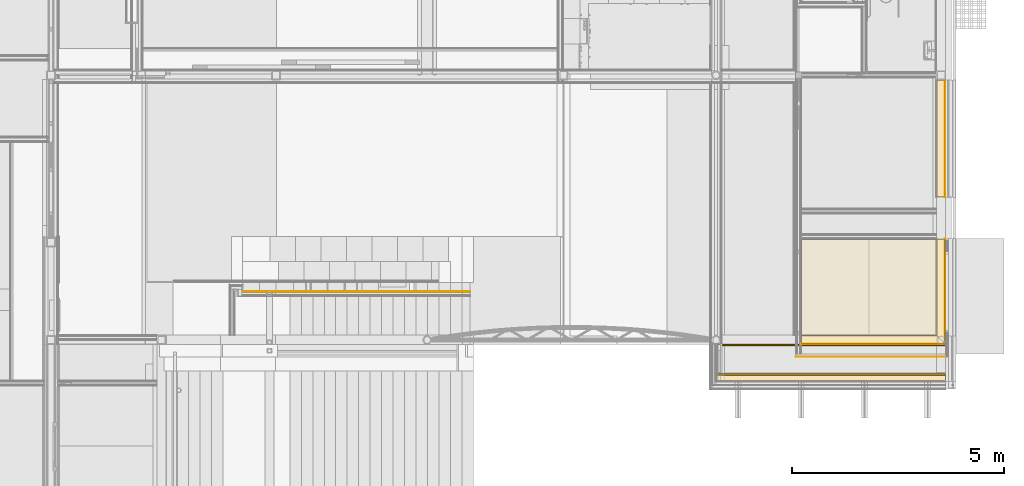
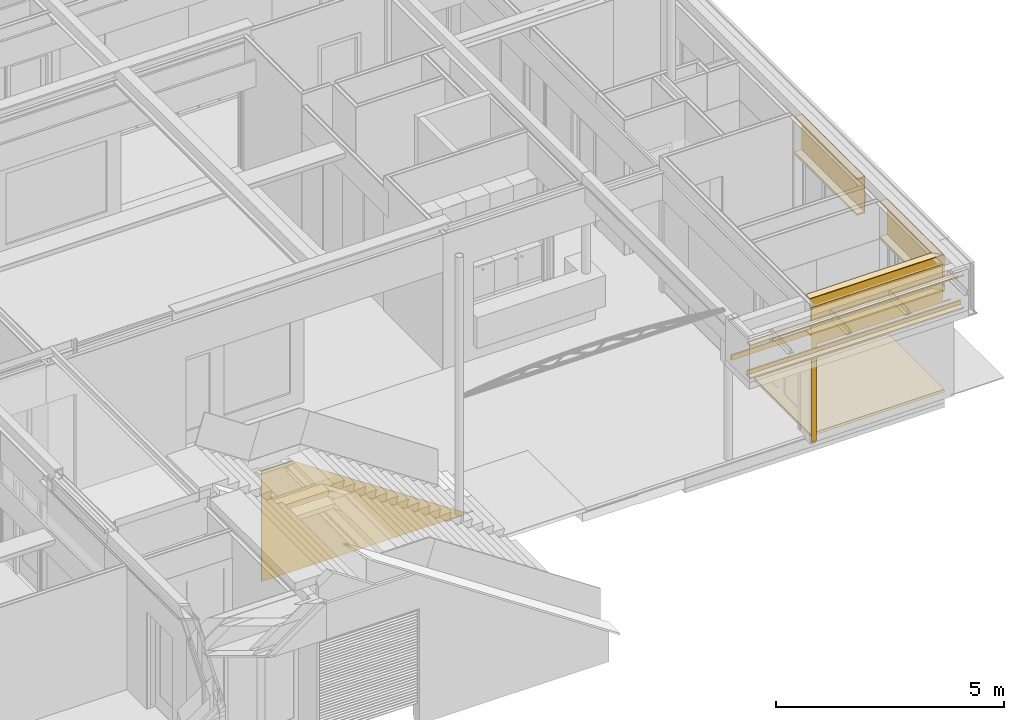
# One storey, part 117 of 165: 16 coverings, 1 opening, 7 elements without a shape of their own.
"""IFC2X3 building model written with IfcOpenShell, lengths in millimetres."""

from ifc_helpers import new_model, entity, si_unit, converted_unit, derived_unit, money_unit, direction, frame, origin_with_axes, place, context, subcontext, project, spatial, faceted_brep, material, type_object, element, aggregate, save


model = new_model("IFC2X3")

# Units and contexts
model_context = context("Model", 3, precision=0.01, world=origin_with_axes(), true_north=direction((0.0, 1.0)))
body_context = subcontext(model_context, "Body", "Model", "MODEL_VIEW")
ifc_project = project(units=[si_unit("LENGTHUNIT", "METRE", prefix="MILLI"), si_unit("AREAUNIT", "SQUARE_METRE"), si_unit("VOLUMEUNIT", "CUBIC_METRE"), converted_unit("PLANEANGLEUNIT", "DEGREE", entity("IfcPlaneAngleMeasure", 0.0174532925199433), si_unit("PLANEANGLEUNIT", "RADIAN"), dimensions=[0, 0, 0, 0, 0, 0, 0]), money_unit("EUR"), converted_unit("TIMEUNIT", "Year", entity("IfcTimeMeasure", 31556926.0), si_unit("TIMEUNIT", "SECOND"), dimensions=[0, 0, 1, 0, 0, 0, 0]), si_unit("MASSUNIT", "GRAM", prefix="KILO"), si_unit("THERMODYNAMICTEMPERATUREUNIT", "DEGREE_CELSIUS"), si_unit("LUMINOUSINTENSITYUNIT", "LUMEN"), si_unit("ENERGYUNIT", "JOULE", prefix="MEGA"), derived_unit("THERMALCONDUCTANCEUNIT", [(si_unit("POWERUNIT", "WATT"), 1), (si_unit("LENGTHUNIT", "METRE"), -1), (si_unit("THERMODYNAMICTEMPERATUREUNIT", "KELVIN"), -1)]), derived_unit("SPECIFICHEATCAPACITYUNIT", [(si_unit("ENERGYUNIT", "JOULE"), 1), (si_unit("MASSUNIT", "GRAM", prefix="KILO"), -1), (si_unit("THERMODYNAMICTEMPERATUREUNIT", "KELVIN"), -1)]), derived_unit("MASSDENSITYUNIT", [(si_unit("MASSUNIT", "GRAM", prefix="KILO"), 1), (si_unit("VOLUMEUNIT", "CUBIC_METRE"), -1)])], contexts=[model_context])

# Site, building, storey
site_placement = place(None, origin_with_axes())
site = spatial("IfcSite", under=ifc_project, at=site_placement, Name="Site", CompositionType="ELEMENT")
building_placement = place(site_placement, origin_with_axes())
building = spatial("IfcBuilding", under=site, at=building_placement, Name="Naam gebouw", CompositionType="ELEMENT")
storey_placement = place(building_placement, origin_with_axes())
storey = spatial("IfcBuildingStorey", under=building, at=storey_placement, Name="Begane grond", CompositionType="ELEMENT", Elevation=0.0)

# Proxy, covering
building_element_proxy_type_1 = type_object("IfcBuildingElementProxyType", Name="22 Metal stud 125 oregon pine 125", PredefinedType="NOTDEFINED")
proxy_1_placement = place(storey_placement, frame((13358.57015757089, 5730.000004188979, -100.0), z_axis=(0.0, 0.0, 1.0), x_axis=(1.0, 0.0, 0.0)))
proxy_1 = element("IfcBuildingElementProxy", 1, at=proxy_1_placement, inside=storey, type_object=building_element_proxy_type_1, Name="_Wand-x")
ifc_material_1 = material(Name="Hout - Multiplex Oregon Pine")
covering_1_placement = place(proxy_1_placement, origin_with_axes())
covering_1 = element("IfcCovering", 2, at=covering_1_placement, material=ifc_material_1, Name="Hout - Multiplex Oregon Pine", PredefinedType="NOTDEFINED", context=body_context, shape_type="Brep", body=[
    faceted_brep([(5161.429869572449, 0.0, 38.1601360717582), (5173.670073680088, 0.0, 29.99999999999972), (5351.427797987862, 0.0, 29.99999999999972), (5351.427797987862, 0.0, 0.0), (0.0, 0.0, 0.0), (0.0, 0.0, 2960.0), (778.6700749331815, 0.0, 2959.999998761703), (1201.429869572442, 0.0, 2678.160136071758), (1291.429869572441, 0.0, 2618.160136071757), (1381.429869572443, 0.0, 2558.160136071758), (1471.429869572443, 0.0, 2498.160136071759), (1561.429869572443, 0.0, 2438.160136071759), (1651.429869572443, 0.0, 2378.160136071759), (1741.429869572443, 0.0, 2318.160136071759), (1831.429869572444, 0.0, 2258.160136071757), (1921.429869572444, 0.0, 2198.160136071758), (2011.429869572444, 0.0, 2138.160136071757), (2101.429869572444, 0.0, 2078.160136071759), (2191.429869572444, 0.0, 2018.160136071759), (2281.429869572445, 0.0, 1958.160136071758), (2371.429869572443, 0.0, 1898.160136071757), (2461.429869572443, 0.0, 1838.160136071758), (2551.429869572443, 0.0, 1778.160136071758), (2641.429869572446, 0.0, 1718.160136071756), (2731.429869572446, 0.0, 1658.160136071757), (2821.429869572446, 0.0, 1598.160136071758), (2911.429869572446, 0.0, 1538.160136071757), (3001.42986957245, 0.0, 1478.160136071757), (3091.429869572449, 0.0, 1418.160136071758), (3181.429869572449, 0.0, 1358.160136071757), (3271.429869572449, 0.0, 1298.160136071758), (3361.429869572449, 0.0, 1238.160136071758), (3451.429869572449, 0.0, 1178.160136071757), (3541.429869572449, 0.0, 1118.160136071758), (3631.429869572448, 0.0, 1058.160136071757), (3721.429869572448, 0.0, 998.1601360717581), (3811.429869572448, 0.0, 938.1601360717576), (3901.429869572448, 0.0, 878.1601360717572), (3991.429869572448, 0.0, 818.1601360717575), (4081.429869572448, 0.0, 758.160136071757), (4171.429869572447, 0.0, 698.1601360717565), (4261.429869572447, 0.0, 638.1601360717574), (4351.429869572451, 0.0, 578.1601360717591), (4441.429869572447, 0.0, 518.1601360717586), (4531.429869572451, 0.0, 458.1601360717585), (4621.42986957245, 0.0, 398.1601360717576), (4711.42986957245, 0.0, 338.1601360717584), (4801.42986957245, 0.0, 278.1601360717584), (4891.42986957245, 0.0, 218.1601360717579), (4981.42986957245, 0.0, 158.1601360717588), (5071.42986957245, 0.0, 98.16013607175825), (701.4298424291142, 0.0, 2825.499999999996), (634.1798424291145, 0.0, 2825.499999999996), (634.1798424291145, 0.0, 2941.499999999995), (701.4298424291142, 0.0, 2941.499999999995), (701.4298424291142, 0.0, 2949.999999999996), (561.4298424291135, 0.0, 2949.999999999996), (561.4298424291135, 0.0, 2941.499999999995), (628.6798424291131, 0.0, 2941.499999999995), (628.6798424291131, 0.0, 2825.499999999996), (561.4298424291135, 0.0, 2825.499999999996), (561.4298424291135, 0.0, 2816.999999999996), (701.4298424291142, 0.0, 2816.999999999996), (5161.429870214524, -12.49999999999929, 38.1601360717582), (5173.670074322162, -12.49999999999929, 29.99999999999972), (5351.427797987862, -12.4999999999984, 29.99999999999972), (5351.427797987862, -12.4999999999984, 0.0), (1.236344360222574e-09, -12.50000000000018, 0.0), (1.236344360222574e-09, -12.50000000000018, 2960.0), (778.6700754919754, -12.49999999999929, 2959.999998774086), (1201.429870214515, -12.49999999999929, 2678.160136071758), (1291.429870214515, -12.49999999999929, 2618.160136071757), (1381.429870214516, -12.49999999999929, 2558.160136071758), (1471.429870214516, -12.49999999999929, 2498.160136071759), (1561.429870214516, -12.49999999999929, 2438.160136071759), (1651.429870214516, -12.49999999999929, 2378.160136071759), (1741.429870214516, -12.49999999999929, 2318.160136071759), (1831.429870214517, -12.49999999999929, 2258.160136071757), (1921.429870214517, -12.49999999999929, 2198.160136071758), (2011.429870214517, -12.49999999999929, 2138.160136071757), (2101.429870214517, -12.49999999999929, 2078.160136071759), (2191.429870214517, -12.49999999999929, 2018.160136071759), (2281.429870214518, -12.49999999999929, 1958.160136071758), (2371.429870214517, -12.49999999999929, 1898.160136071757), (2461.429870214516, -12.49999999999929, 1838.160136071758), (2551.429870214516, -12.49999999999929, 1778.160136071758), (2641.429870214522, -12.49999999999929, 1718.160136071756), (2731.429870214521, -12.49999999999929, 1658.160136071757), (2821.429870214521, -12.49999999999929, 1598.160136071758), (2911.429870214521, -12.49999999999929, 1538.160136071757), (3001.429870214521, -12.49999999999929, 1478.160136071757), (3091.429870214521, -12.49999999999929, 1418.160136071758), (3181.429870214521, -12.49999999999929, 1358.160136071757), (3271.42987021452, -12.49999999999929, 1298.160136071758), (3361.42987021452, -12.49999999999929, 1238.160136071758), (3451.42987021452, -12.49999999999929, 1178.160136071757), (3541.42987021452, -12.49999999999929, 1118.160136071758), (3631.42987021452, -12.49999999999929, 1058.160136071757), (3721.429870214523, -12.49999999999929, 998.1601360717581), (3811.429870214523, -12.49999999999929, 938.1601360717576), (3901.429870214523, -12.49999999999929, 878.1601360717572), (3991.429870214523, -12.49999999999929, 818.1601360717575), (4081.429870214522, -12.49999999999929, 758.160136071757), (4171.429870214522, -12.49999999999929, 698.1601360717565), (4261.429870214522, -12.49999999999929, 638.1601360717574), (4351.429870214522, -12.49999999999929, 578.1601360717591), (4441.429870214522, -12.49999999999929, 518.1601360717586), (4531.429870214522, -12.49999999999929, 458.1601360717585), (4621.429870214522, -12.49999999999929, 398.1601360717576), (4711.429870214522, -12.49999999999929, 338.1601360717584), (4801.429870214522, -12.49999999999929, 278.1601360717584), (4891.429870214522, -12.49999999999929, 218.1601360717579), (4981.429870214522, -12.49999999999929, 158.1601360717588), (5071.429870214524, -12.49999999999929, 98.16013607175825), (701.4298424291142, -12.4999999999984, 2825.499999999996), (634.1798424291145, -12.4999999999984, 2825.499999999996), (634.1798424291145, -12.4999999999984, 2941.499999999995), (701.4298424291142, -12.4999999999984, 2941.499999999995), (701.4298424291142, -12.4999999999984, 2949.999999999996), (561.4298424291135, -12.4999999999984, 2949.999999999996), (561.4298424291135, -12.4999999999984, 2941.499999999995), (628.6798424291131, -12.4999999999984, 2941.499999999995), (628.6798424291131, -12.4999999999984, 2825.499999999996), (561.4298424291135, -12.4999999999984, 2825.499999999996), (561.4298424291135, -12.4999999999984, 2816.999999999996), (701.4298424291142, -12.4999999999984, 2816.999999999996)], [[[0, 1, 2, 3, 4, 5, 6, 7, 8, 9, 10, 11, 12, 13, 14, 15, 16, 17, 18, 19, 20, 21, 22, 23, 24, 25, 26, 27, 28, 29, 30, 31, 32, 33, 34, 35, 36, 37, 38, 39, 40, 41, 42, 43, 44, 45, 46, 47, 48, 49, 50], [51, 52, 53, 54, 55, 56, 57, 58, 59, 60, 61, 62]], [[1, 0, 63, 64]], [[65, 2, 1, 64]], [[2, 65, 66, 3]], [[66, 67, 4, 3]], [[68, 5, 4, 67]], [[6, 5, 68, 69]], [[7, 6, 69, 70]], [[8, 7, 70, 71]], [[9, 8, 71, 72]], [[10, 9, 72, 73]], [[11, 10, 73, 74]], [[12, 11, 74, 75]], [[13, 12, 75, 76]], [[14, 13, 76, 77]], [[15, 14, 77, 78]], [[16, 15, 78, 79]], [[17, 16, 79, 80]], [[18, 17, 80, 81]], [[19, 18, 81, 82]], [[20, 19, 82, 83]], [[21, 20, 83, 84]], [[22, 21, 84, 85]], [[23, 22, 85, 86]], [[24, 23, 86, 87]], [[25, 24, 87, 88]], [[26, 25, 88, 89]], [[27, 26, 89, 90]], [[28, 27, 90, 91]], [[29, 28, 91, 92]], [[30, 29, 92, 93]], [[31, 30, 93, 94]], [[32, 31, 94, 95]], [[33, 32, 95, 96]], [[34, 33, 96, 97]], [[35, 34, 97, 98]], [[36, 35, 98, 99]], [[37, 36, 99, 100]], [[38, 37, 100, 101]], [[39, 38, 101, 102]], [[40, 39, 102, 103]], [[41, 40, 103, 104]], [[42, 41, 104, 105]], [[43, 42, 105, 106]], [[44, 43, 106, 107]], [[45, 44, 107, 108]], [[46, 45, 108, 109]], [[47, 46, 109, 110]], [[48, 47, 110, 111]], [[49, 48, 111, 112]], [[50, 49, 112, 113]], [[0, 50, 113, 63]], [[114, 115, 52, 51]], [[115, 116, 53, 52]], [[116, 117, 54, 53]], [[117, 118, 55, 54]], [[118, 119, 56, 55]], [[119, 120, 57, 56]], [[120, 121, 58, 57]], [[121, 122, 59, 58]], [[122, 123, 60, 59]], [[123, 124, 61, 60]], [[124, 125, 62, 61]], [[125, 114, 51, 62]], [[69, 68, 67, 66, 65, 64, 63, 113, 112, 111, 110, 109, 108, 107, 106, 105, 104, 103, 102, 101, 100, 99, 98, 97, 96, 95, 94, 93, 92, 91, 90, 89, 88, 87, 86, 85, 84, 83, 82, 81, 80, 79, 78, 77, 76, 75, 74, 73, 72, 71, 70], [122, 121, 120, 119, 118, 117, 116, 115, 114, 125, 124, 123]]]),
])
aggregate(proxy_1, [covering_1])

# Slab, covering
slab_type = type_object("IfcSlabType", Name="43 Zwevende dekvloer 100", PredefinedType="NOTDEFINED")
slab_placement = place(storey_placement, frame((26511.0, 4249.999999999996, 0.0), z_axis=(0.0, 0.0, 1.0), x_axis=(1.0, 0.0, 0.0)))
slab = element("IfcSlab", 3, at=slab_placement, inside=storey, type_object=slab_type, Name="_Vloer-x", PredefinedType="NOTDEFINED")
ifc_material_2 = material(Name="Cement - dekvloer")
covering_2_placement = place(slab_placement, origin_with_axes())
covering_2 = element("IfcCovering", 4, at=covering_2_placement, material=ifc_material_2, Name="Cement - dekvloer", PredefinedType="FLOORING", context=body_context, shape_type="Brep", body=[
    faceted_brep([(0.0, 230.0000000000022, 0.0), (3388.999999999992, 230.0000000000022, 0.0), (3388.999999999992, 2699.997857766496, 0.0), (0.0, 2699.997865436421, 0.0), (3388.999999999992, 230.0000000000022, -69.99999999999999), (0.0, 230.0000000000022, -69.99999999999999), (3388.999999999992, 2699.997857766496, -69.99999999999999), (0.0, 2699.997865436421, -69.99999999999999)], [[[0, 1, 2, 3]], [[4, 1, 0, 5]], [[1, 4, 6, 2]], [[6, 7, 3, 2]], [[5, 0, 3, 7]], [[4, 5, 7, 6]]]),
])
aggregate(slab, [covering_2])

# Beam, coverings
beam_type_1 = type_object("IfcBeamType", Name="31 HSB boven kozijnen 214 x 1000", PredefinedType="BEAM")
beam_1_placement = place(storey_placement, frame((29686.0, 6959.997857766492, 2600.000000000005), z_axis=(0.0, 0.0, 1.0), x_axis=(-1.0, 0.0, 0.0)))
beam_1 = element("IfcBeam", 5, at=beam_1_placement, inside=storey, type_object=beam_type_1, Name="28_Balk-x", ObjectType="BEAM")
ifc_material_3 = material(Name="Hout - Vloer")
covering_3_placement = place(beam_1_placement, origin_with_axes())
covering_3 = element("IfcCovering", 6, at=covering_3_placement, material=ifc_material_3, Name="Hout - Vloer", PredefinedType="NOTDEFINED", context=body_context, shape_type="Brep", body=[
    faceted_brep([(-196.0000083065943, 2461.997866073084, 49.99999999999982), (-196.0000083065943, 2461.997866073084, 12.00000596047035), (-196.0000083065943, 0.0, 12.00000596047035), (-196.0000083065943, 0.0, 49.99999999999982), (-11.9999963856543, 2277.997854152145, 49.99999999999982), (-11.9999963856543, 2277.997854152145, 12.00000596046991), (-11.9999963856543, 0.0, 12.00000596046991), (-11.9999963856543, 0.0, 49.99999999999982)], [[[0, 1, 2, 3]], [[0, 4, 5, 1]], [[1, 5, 6, 2]], [[3, 2, 6, 7]], [[4, 0, 3, 7]], [[5, 4, 7, 6]]]),
])
ifc_material_4 = material(Name="Hout - Multiplex")
covering_4_placement = place(beam_1_placement, origin_with_axes())
covering_4 = element("IfcCovering", 7, at=covering_4_placement, material=ifc_material_4, Name="Hout - Multiplex", PredefinedType="NOTDEFINED", context=body_context, shape_type="Brep", body=[
    faceted_brep([(-214.0000025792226, 2479.997860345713, 999.9999999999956), (-214.0000025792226, 2479.997860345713, 11.99999999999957), (-214.0000025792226, 0.0, 11.99999999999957), (-214.0000025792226, 0.0, 999.9999999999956), (-196.000001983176, 2461.997859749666, 999.9999999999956), (-196.000001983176, 2461.997859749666, 11.99999999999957), (-196.000001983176, 0.0, 11.99999999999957), (-196.000001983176, 0.0, 999.9999999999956)], [[[0, 1, 2, 3]], [[0, 4, 5, 1]], [[1, 5, 6, 2]], [[3, 2, 6, 7]], [[4, 0, 3, 7]], [[5, 4, 7, 6]]]),
])

# Beam, covering
beam_2_placement = place(storey_placement, frame((29686.0, 4693.999999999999, 2600.000000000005), z_axis=(0.0, 0.0, 1.0), x_axis=(0.0, 1.0, 0.0)))
beam_2 = element("IfcBeam", 8, at=beam_2_placement, inside=storey, type_object=beam_type_1, Name="28_Balk-x", ObjectType="BEAM")
covering_5_placement = place(beam_2_placement, origin_with_axes())
covering_5 = element("IfcCovering", 9, at=covering_5_placement, material=ifc_material_3, Name="Hout - Vloer", PredefinedType="NOTDEFINED", context=body_context, shape_type="Brep", body=[
    faceted_brep([(-196.0000019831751, 3174.999999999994, 999.9999999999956), (-196.0000019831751, 3174.999999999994, 961.9999910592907), (-196.000001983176, -196.000001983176, 961.9999910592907), (-196.000001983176, -196.000001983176, 999.9999999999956), (-11.99999006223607, 3174.999999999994, 999.9999999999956), (-11.99999006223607, 3174.999999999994, 962.0000059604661), (-11.99999006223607, -11.99999006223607, 962.0000059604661), (-11.99999006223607, -11.99999006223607, 999.9999999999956)], [[[0, 1, 2, 3]], [[0, 4, 5, 1]], [[1, 5, 6, 2]], [[3, 2, 6, 7]], [[4, 0, 3, 7]], [[5, 4, 7, 6]]]),
])

# Covering
covering_6_placement = place(beam_1_placement, origin_with_axes())
covering_6 = element("IfcCovering", 10, at=covering_6_placement, material=ifc_material_3, Name="Hout - Vloer", PredefinedType="NOTDEFINED", context=body_context, shape_type="Brep", body=[
    faceted_brep([(-196.000001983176, 2461.997859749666, 999.9999999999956), (-196.000001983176, 2461.997859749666, 961.9999910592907), (-196.000001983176, 0.0, 961.9999910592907), (-196.000001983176, 0.0, 999.9999999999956), (-11.99999006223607, 2277.997847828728, 999.9999999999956), (-11.99999006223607, 2277.997847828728, 962.0000059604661), (-11.99999006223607, 0.0, 962.0000059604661), (-11.99999006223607, 0.0, 999.9999999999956)], [[[0, 1, 2, 3]], [[0, 4, 5, 1]], [[1, 5, 6, 2]], [[3, 2, 6, 7]], [[4, 0, 3, 7]], [[5, 4, 7, 6]]]),
])

aggregate(beam_1, [covering_3, covering_4, covering_6])

covering_7_placement = place(beam_2_placement, origin_with_axes())
covering_7 = element("IfcCovering", 11, at=covering_7_placement, material=ifc_material_3, Name="Hout - Vloer", PredefinedType="NOTDEFINED", context=body_context, shape_type="Brep", body=[
    faceted_brep([(-196.0000083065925, 3174.999999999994, 49.99999999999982), (-196.0000083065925, 3174.999999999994, 12.00000596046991), (-196.0000083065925, -196.0000083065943, 12.00000596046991), (-196.0000083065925, -196.0000083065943, 49.99999999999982), (-11.99999638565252, 3174.999999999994, 49.99999999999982), (-11.99999638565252, 3174.999999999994, 12.00000596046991), (-11.99999638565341, -11.9999963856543, 12.00000596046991), (-11.99999638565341, -11.9999963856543, 49.99999999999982)], [[[0, 1, 2, 3]], [[0, 4, 5, 1]], [[1, 5, 6, 2]], [[3, 2, 6, 7]], [[4, 0, 3, 7]], [[5, 4, 7, 6]]]),
])

covering_8_placement = place(beam_2_placement, origin_with_axes())
covering_8 = element("IfcCovering", 12, at=covering_8_placement, material=ifc_material_4, Name="Hout - Multiplex", PredefinedType="NOTDEFINED", context=body_context, shape_type="Brep", body=[
    faceted_brep([(-214.0000025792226, 3174.999999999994, 999.9999999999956), (-214.0000025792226, 3174.999999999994, 11.99999999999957), (-214.0000025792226, -214.0000025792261, 11.99999999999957), (-214.0000025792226, -214.0000025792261, 999.9999999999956), (-196.0000019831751, 3174.999999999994, 999.9999999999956), (-196.0000019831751, 3174.999999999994, 11.99999999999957), (-196.000001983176, -196.000001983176, 11.99999999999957), (-196.000001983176, -196.000001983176, 999.9999999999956)], [[[0, 1, 2, 3]], [[0, 4, 5, 1]], [[1, 5, 6, 2]], [[3, 2, 6, 7]], [[4, 0, 3, 7]], [[5, 4, 7, 6]]]),
])

aggregate(beam_2, [covering_5, covering_7, covering_8])

# Beam, coverings
beam_3_placement = place(storey_placement, frame((29686.0, 7945.000110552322, 2600.000000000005), z_axis=(0.0, 0.0, 1.0), x_axis=(1.0, 0.0, 0.0)))
beam_3 = element("IfcBeam", 13, at=beam_3_placement, inside=storey, type_object=beam_type_1, Name="28_Balk-x", ObjectType="BEAM")
covering_9_placement = place(beam_3_placement, origin_with_axes())
covering_9 = element("IfcCovering", 14, at=covering_9_placement, material=ifc_material_3, Name="Hout - Vloer", PredefinedType="NOTDEFINED", context=body_context, shape_type="Brep", body=[
    faceted_brep([(11.99999006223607, 2750.0, 999.9999999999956), (11.99999006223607, 2750.0, 962.0000059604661), (11.99999006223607, 0.0, 962.0000059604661), (11.99999006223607, 0.0, 999.9999999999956), (196.000001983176, 2750.0, 999.9999999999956), (196.000001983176, 2750.0, 961.9999910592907), (196.000001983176, 0.0, 961.9999910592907), (196.000001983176, 0.0, 999.9999999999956)], [[[0, 1, 2, 3]], [[0, 4, 5, 1]], [[1, 5, 6, 2]], [[3, 2, 6, 7]], [[4, 0, 3, 7]], [[5, 4, 7, 6]]]),
])
covering_10_placement = place(beam_3_placement, origin_with_axes())
covering_10 = element("IfcCovering", 15, at=covering_10_placement, material=ifc_material_3, Name="Hout - Vloer", PredefinedType="NOTDEFINED", context=body_context, shape_type="Brep", body=[
    faceted_brep([(11.9999963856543, 2750.0, 49.99999999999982), (11.9999963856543, 2750.0, 12.00000596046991), (11.9999963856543, 0.0, 12.00000596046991), (11.9999963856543, 0.0, 49.99999999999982), (196.0000083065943, 2750.0, 49.99999999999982), (196.0000083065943, 2750.0, 12.00000596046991), (196.0000083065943, 0.0, 12.00000596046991), (196.0000083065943, 0.0, 49.99999999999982)], [[[0, 1, 2, 3]], [[0, 4, 5, 1]], [[1, 5, 6, 2]], [[3, 2, 6, 7]], [[4, 0, 3, 7]], [[5, 4, 7, 6]]]),
])
covering_11_placement = place(beam_3_placement, origin_with_axes())
covering_11 = element("IfcCovering", 16, at=covering_11_placement, material=ifc_material_4, Name="Hout - Multiplex", PredefinedType="NOTDEFINED", context=body_context, shape_type="Brep", body=[
    faceted_brep([(196.000001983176, 2750.0, 999.9999999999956), (196.000001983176, 2750.0, 11.99999999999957), (196.000001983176, 0.0, 11.99999999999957), (196.000001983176, 0.0, 999.9999999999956), (214.0000025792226, 2750.0, 999.9999999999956), (214.0000025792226, 2750.0, 11.99999999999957), (214.0000025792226, 0.0, 11.99999999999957), (214.0000025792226, 0.0, 999.9999999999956)], [[[0, 1, 2, 3]], [[0, 4, 5, 1]], [[1, 5, 6, 2]], [[3, 2, 6, 7]], [[4, 0, 3, 7]], [[5, 4, 7, 6]]]),
])
aggregate(beam_3, [covering_9, covering_10, covering_11])

beam_type_2 = type_object("IfcBeamType", Name="31 HSB boven hoofdentree 880 x 928", PredefinedType="BEAM")
beam_4_placement = place(storey_placement, frame((29899.99999999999, 4479.999981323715, 2600.000000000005), z_axis=(0.0, 0.0, 1.0), x_axis=(4.749795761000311e-09, 1.0, 0.0)))
beam_4 = element("IfcBeam", 17, at=beam_4_placement, inside=storey, type_object=beam_type_2, Name="28_Balk-x", ObjectType="BEAM")
covering_12_placement = place(beam_4_placement, origin_with_axes())
covering_12 = element("IfcCovering", 18, at=covering_12_placement, material=ifc_material_3, Name="Hout - Vloer", PredefinedType="NOTDEFINED", context=body_context, shape_type="Brep", body=[
    faceted_brep([(-727.9999987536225, 5400.000960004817, 121.9999910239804), (-867.9999930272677, 5400.000960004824, 121.9999963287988), (-867.9999930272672, 0.0, 121.9999963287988), (-727.9999987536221, 0.0, 121.9999910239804), (-727.9999987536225, 5400.000960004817, 83.99998837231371), (-867.9999930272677, 5400.000960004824, 83.9999910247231), (-867.9999930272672, 0.0, 83.9999910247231), (-727.9999987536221, 0.0, 83.99998837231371)], [[[0, 1, 2, 3]], [[0, 4, 5, 1]], [[1, 5, 6, 2]], [[3, 2, 6, 7]], [[4, 0, 3, 7]], [[5, 4, 7, 6]]]),
])
covering_13_placement = place(beam_4_placement, origin_with_axes())
covering_13 = element("IfcCovering", 19, at=covering_13_placement, material=ifc_material_3, Name="Hout - Vloer", PredefinedType="NOTDEFINED", context=body_context, shape_type="Brep", body=[
    faceted_brep([(-689.9999961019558, 5400.000960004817, 223.999987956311), (-727.993698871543, 5400.000960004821, 223.999987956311), (-727.9936988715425, 0.0, 223.999987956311), (-689.9999961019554, 0.0, 223.999987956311), (-689.9999961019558, 5400.000960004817, 83.99998837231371), (-727.9999978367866, 5400.000960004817, 83.99998837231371), (-727.9999978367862, 0.0, 83.99998837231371), (-689.9999961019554, 0.0, 83.99998837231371)], [[[0, 1, 2, 3]], [[0, 4, 5, 1]], [[1, 5, 6, 2]], [[3, 2, 6, 7]], [[4, 0, 3, 7]], [[5, 4, 7, 6]]]),
])
covering_14_placement = place(beam_4_placement, origin_with_axes())
covering_14 = element("IfcCovering", 20, at=covering_14_placement, material=ifc_material_3, Name="Hout - Vloer", PredefinedType="NOTDEFINED", context=body_context, shape_type="Brep", body=[
    faceted_brep([(-38.0000017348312, 5400.000960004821, 83.99998837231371), (0.0, 5400.000960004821, 83.99998837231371), (0.0, 0.0, 83.99998837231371), (-38.00000173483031, 0.0, 83.99998837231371), (-38.0000017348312, 5400.000960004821, 223.999987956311), (0.0, 5400.000960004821, 223.999987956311), (0.0, 0.0, 223.999987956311), (-38.00000173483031, 0.0, 223.999987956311)], [[[0, 1, 2, 3]], [[0, 4, 5, 1]], [[1, 5, 6, 2]], [[3, 2, 6, 7]], [[4, 0, 3, 7]], [[5, 4, 7, 6]]]),
])
covering_15_placement = place(beam_4_placement, origin_with_axes())
covering_15 = element("IfcCovering", 21, at=covering_15_placement, material=ifc_material_3, Name="Hout - Vloer", PredefinedType="NOTDEFINED", context=body_context, shape_type="Brep", body=[
    faceted_brep([(-867.9999913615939, 5400.000960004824, 995.0017919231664), (-867.9999913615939, 5400.000960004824, 957.008963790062), (-867.9999913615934, 0.0, 957.008963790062), (-867.9999913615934, 0.0, 995.0017919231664), (-727.9999961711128, 5400.000960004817, 995.000008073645), (-727.9484996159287, 5400.000960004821, 956.9999892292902), (-727.9484996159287, 0.0, 956.9999892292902), (-727.9999961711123, 0.0, 995.000008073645)], [[[0, 1, 2, 3]], [[0, 4, 5, 1]], [[1, 5, 6, 2]], [[3, 2, 6, 7]], [[4, 0, 3, 7]], [[5, 4, 7, 6]]]),
])
aggregate(beam_4, [covering_12, covering_13, covering_14, covering_15])

# Proxy, opening, covering
building_element_proxy_type_2 = type_object("IfcBuildingElementProxyType", Name="21 Zetwerk op Isolatie 63", PredefinedType="NOTDEFINED")
proxy_2_placement = place(storey_placement, frame((29899.99999999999, 4186.999999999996, -10.00000000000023), z_axis=(0.0, 0.0, 1.0), x_axis=(-1.0, 0.0, 0.0)))
proxy_2 = element("IfcBuildingElementProxy", 22, at=proxy_2_placement, inside=storey, type_object=building_element_proxy_type_2, Name="_Wand-x")
opening_placement = place(proxy_2_placement, frame((1699.499998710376, 0.0, 0.0), z_axis=(0.0, 0.0, 1.0), x_axis=(1.0, 0.0, 0.0)))
element("IfcOpeningElement", 23, at=opening_placement, cuts=proxy_2, Name="_Merk AL1", context=body_context, shape_type="Brep", body=[
    faceted_brep([(-1762.500001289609, -63.99999999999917, 2580.0), (-1762.500001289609, -64.00000000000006, -60.00000000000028), (1699.500001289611, -64.00000000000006, -60.00000000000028), (1699.500001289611, -64.00000000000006, 2580.0), (-1762.500001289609, 1.000000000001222, 2580.0), (-1762.500001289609, 1.000000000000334, -60.00000000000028), (1699.500001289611, 1.000000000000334, -60.00000000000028), (1699.500001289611, 1.000000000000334, 2580.0)], [[[0, 1, 2, 3]], [[4, 5, 1, 0]], [[5, 6, 2, 1]], [[6, 7, 3, 2]], [[7, 4, 0, 3]], [[6, 5, 4, 7]]]),
])
ifc_material_5 = material(Name="Metaal - Aluminium")
covering_16_placement = place(proxy_2_placement, origin_with_axes())
covering_16 = element("IfcCovering", 24, at=covering_16_placement, material=ifc_material_5, Name="Metaal - Aluminium", PredefinedType="NOTDEFINED", context=body_context, shape_type="Brep", body=[
    faceted_brep([(0.0, 4.470353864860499e-06, 2580.0), (0.0, -3.000000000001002, 2580.0), (0.0, -3.000000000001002, 2620.0), (0.0, 4.470353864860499e-06, 2620.0), (3398.999999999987, -3.000000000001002, 2580.0), (3398.999999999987, 4.101226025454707e-07, 2580.0), (3398.999999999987, -3.000000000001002, 0.0), (3523.999999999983, -3.000000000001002, 0.0), (3523.999999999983, -3.000000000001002, 3610.0), (213.9999999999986, -3.000000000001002, 3610.0), (213.9999999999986, -3.000000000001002, 3605.0), (299.0000044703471, -3.000000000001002, 3605.0), (299.0000044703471, -3.000000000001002, 3593.0), (213.9999999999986, -3.000000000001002, 3593.0), (213.9999999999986, -3.000000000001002, 2620.0), (213.9999999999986, 4.470353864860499e-06, 2620.0), (213.9999999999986, 4.798437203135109e-07, 3593.0), (299.0000044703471, 4.101226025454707e-07, 3593.0), (299.0000044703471, 4.101226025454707e-07, 3605.0), (213.9999999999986, 4.306288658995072e-07, 3605.0), (213.9999999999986, 4.101226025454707e-07, 3610.0), (3523.999999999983, 0.0, 3610.0), (3523.999999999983, 0.0, 0.0), (3398.999999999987, 1.585673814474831e-07, 0.0)], [[[0, 1, 2, 3]], [[4, 1, 0, 5]], [[4, 6, 7, 8, 9, 10, 11, 12, 13, 14, 2, 1]], [[15, 3, 2, 14]], [[5, 0, 3, 15, 16, 17, 18, 19, 20, 21, 22, 23]], [[6, 4, 5, 23]], [[6, 23, 22, 7]], [[21, 8, 7, 22]], [[20, 9, 8, 21]], [[10, 9, 20, 19]], [[10, 19, 18, 11]], [[11, 18, 17, 12]], [[13, 12, 17, 16]], [[16, 15, 14, 13]]]),
])
aggregate(proxy_2, [covering_16])

save(model, "model.ifc")
